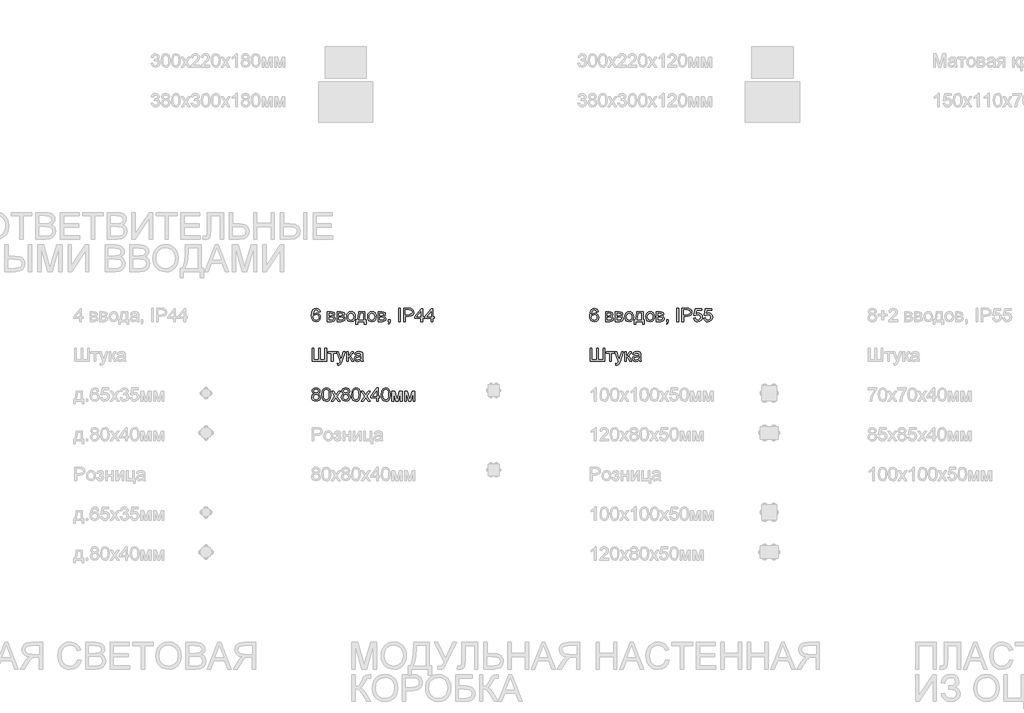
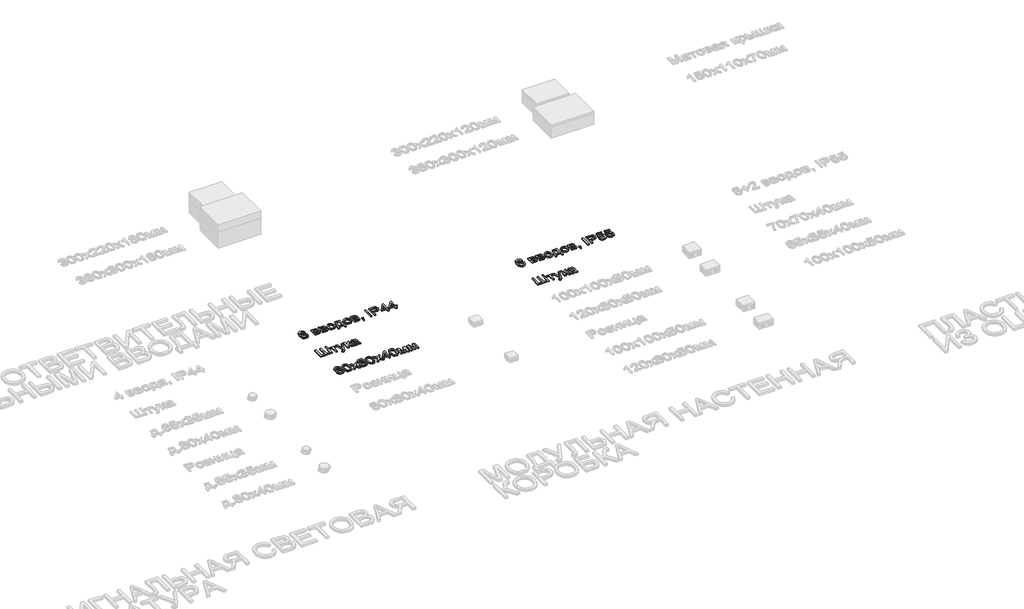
# One storey, part 15 of 98: 5 proxies.
"""IFC4 building model written with IfcOpenShell, lengths in millimetres."""

from ifc_helpers import new_model, si_unit, origin, origin_with_axes, place, context, project, spatial, polyline, outline, extrude, element, save

model = new_model("IFC4")

# Units and contexts
model_context = context("Model", 3, world=origin())
ifc_project = project(units=[si_unit("LENGTHUNIT", "METRE", prefix="MILLI")], contexts=[model_context])

# Site, building, storey
site = spatial("IfcSite", under=ifc_project)
building = spatial("IfcBuilding", under=site)
storey = spatial("IfcBuildingStorey", under=building, Name="Этаж 01", Elevation=0.0)

# Proxies
placement = place(None, origin())
element("IfcBuildingElementProxy", 1, Name="100", ObjectType="100", at=placement, inside=storey, context=model_context, shape_type="SweptSolid", body=[
    extrude(outline(polyline([(3914.8050424, -45085.7395637), (3902.2480036, -45087.3091935), (3897.4900632, -45076.8368194), (3884.9084989, -45071.6128951), (3873.5777335, -45074.6540529), (3865.006083, -45086.0706575), (3861.4376276, -45108.4501455), (3872.5108757, -45098.4314925), (3886.2328741, -45095.1573428), (3897.8334197, -45097.3952916), (3907.5700298, -45104.109138), (3914.1735116, -45114.3669143), (3916.3746722, -45127.2366527), (3912.2298684, -45144.5638947), (3900.8255266, -45156.8266279), (3884.3689387, -45161.0817963), (3870.1227084, -45158.2613677), (3858.7766145, -45149.8000818), (3851.3545953, -45134.8640728), (3848.8805889, -45112.6194748), (3851.6274411, -45087.6096305), (3859.8679978, -45070.5092491), (3871.1190555, -45061.9192045), (3885.6933138, -45059.0558563), (3896.7113796, -45060.8278213), (3905.5344161, -45066.1437161), (3911.7148336, -45074.5866079), (3914.8050424, -45085.7395637)]), holes=[polyline([(3861.4376276, -45127.040449), (3864.3438954, -45137.9174933), (3872.0694173, -45145.8146935), (3883.38792, -45148.5247575), (3891.674462, -45147.1206746), (3898.1890389, -45142.9084257), (3902.4104848, -45136.2865498), (3903.8176335, -45127.6535857), (3902.4288789, -45119.3670437), (3898.2626153, -45113.0486705), (3891.6376738, -45109.0479538), (3882.8728852, -45107.7143815), (3867.6793588, -45113.0486705), (3862.9980604, -45119.2137596), (3861.4376276, -45127.040449)])]), origin_with_axes(), (0.0, 0.0, 1.0), 10.0),
    extrude(outline(polyline([(3969.742087, -45085.7395637), (3997.406813, -45085.7395637), (4012.575814, -45087.4195581), (4021.1106763, -45093.5754502), (4024.6791316, -45104.3053417), (4022.5208906, -45113.024145), (4016.021642, -45119.2413507), (4024.4584024, -45126.0471676), (4027.8183913, -45137.8807051), (4025.6908071, -45147.4517684), (4020.6324297, -45154.1901403), (4012.6248649, -45158.1816599), (4001.6497187, -45159.5121665), (3969.742087, -45159.5121665), (3969.742087, -45085.7395637)]), holes=[polyline([(3982.2991258, -45146.9551277), (3997.7011186, -45146.9551277), (4011.3618034, -45144.6865221), (4015.2613525, -45136.8506356), (4013.1153742, -45130.8051081), (4007.5235679, -45127.2857037), (3996.4748453, -45126.5499397), (3982.2991258, -45126.5499397), (3982.2991258, -45146.9551277)]), polyline([(3982.2991258, -45113.9929009), (3994.7090118, -45113.9929009), (4004.948394, -45113.3552388), (4009.9270636, -45110.8045903), (4012.1220929, -45106.1938026), (4008.2715946, -45100.0379106), (3995.1014192, -45098.2966025), (3982.2991258, -45098.2966025), (3982.2991258, -45113.9929009)])]), origin_with_axes(), (0.0, 0.0, 1.0), 10.0),
    extrude(outline(polyline([(4043.5146898, -45085.7395637), (4071.1794158, -45085.7395637), (4086.3484167, -45087.4195581), (4094.883279, -45093.5754502), (4098.4517344, -45104.3053417), (4096.2934934, -45113.024145), (4089.7942448, -45119.2413507), (4098.2310052, -45126.0471676), (4101.5909941, -45137.8807051), (4099.4634099, -45147.4517684), (4094.4050324, -45154.1901403), (4086.3974677, -45158.1816599), (4075.4223215, -45159.5121665), (4043.5146898, -45159.5121665), (4043.5146898, -45085.7395637)]), holes=[polyline([(4056.0717285, -45146.9551277), (4071.4737214, -45146.9551277), (4085.1344062, -45144.6865221), (4089.0339553, -45136.8506356), (4086.887977, -45130.8051081), (4081.2961707, -45127.2857037), (4070.2474481, -45126.5499397), (4056.0717285, -45126.5499397), (4056.0717285, -45146.9551277)]), polyline([(4056.0717285, -45113.9929009), (4068.4816145, -45113.9929009), (4078.7209967, -45113.3552388), (4083.6996664, -45110.8045903), (4085.8946956, -45106.1938026), (4082.0441974, -45100.0379106), (4068.874022, -45098.2966025), (4056.0717285, -45098.2966025), (4056.0717285, -45113.9929009)])]), origin_with_axes(), (0.0, 0.0, 1.0), 10.0),
    extrude(outline(polyline([(4114.1480329, -45122.6258651), (4116.8642282, -45104.8387706), (4125.0128144, -45092.3369141), (4135.0805184, -45086.2116789), (4147.1347851, -45084.1699338), (4160.3264203, -45086.656203), (4170.8631738, -45094.1150104), (4177.7701582, -45105.957745), (4180.0724864, -45121.5957955), (4176.001259, -45143.9384953), (4164.143196, -45156.5813732), (4147.1347851, -45161.0817963), (4133.7837343, -45158.6047242), (4123.2592436, -45151.1735079), (4116.4258355, -45139.082453), (4114.1480329, -45122.6258651)]), holes=[polyline([(4126.7050716, -45122.6013396), (4128.1582055, -45133.9658276), (4132.5176071, -45142.0622972), (4139.0781694, -45146.9091424), (4147.1347851, -45148.5247575), (4155.1546126, -45146.8999454), (4161.7029121, -45142.025509), (4166.0623137, -45133.8217405), (4167.5154476, -45122.2089321), (4166.0531167, -45111.175538), (4161.6661239, -45103.189433), (4155.1086273, -45098.3425877), (4147.1347851, -45096.7269726), (4139.0781694, -45098.3364563), (4132.5176071, -45103.1649075), (4128.1582055, -45111.242983), (4126.7050716, -45122.6013396)])]), origin_with_axes(), (0.0, 0.0, 1.0), 10.0),
    extrude(outline(polyline([(4205.1865639, -45085.7395637), (4252.2754593, -45085.7395637), (4252.2754593, -45146.9551277), (4261.6932384, -45146.9551277), (4261.6932384, -45179.9173545), (4249.1361996, -45179.9173545), (4249.1361996, -45159.5121665), (4197.3384147, -45159.5121665), (4197.3384147, -45179.9173545), (4184.7813759, -45179.9173545), (4184.7813759, -45146.9551277), (4192.6295252, -45146.9551277), (4202.3293471, -45123.0060098), (4205.1865639, -45085.7395637)]), holes=[polyline([(4216.1739728, -45098.2966025), (4213.2309169, -45126.905559), (4206.7561938, -45146.9551277), (4239.7184205, -45146.9551277), (4239.7184205, -45098.2966025), (4216.1739728, -45098.2966025)])]), origin_with_axes(), (0.0, 0.0, 1.0), 10.0),
    extrude(outline(polyline([(4272.6806473, -45122.6258651), (4275.3968427, -45104.8387706), (4283.5454289, -45092.3369141), (4293.6131328, -45086.2116789), (4305.6673995, -45084.1699338), (4318.8590348, -45086.656203), (4329.3957882, -45094.1150104), (4336.3027727, -45105.957745), (4338.6051008, -45121.5957955), (4334.5338734, -45143.9384953), (4322.6758105, -45156.5813732), (4305.6673995, -45161.0817963), (4292.3163488, -45158.6047242), (4281.7918581, -45151.1735079), (4274.95845, -45139.082453), (4272.6806473, -45122.6258651)]), holes=[polyline([(4285.2376861, -45122.6013396), (4286.69082, -45133.9658276), (4291.0502216, -45142.0622972), (4297.6107838, -45146.9091424), (4305.6673995, -45148.5247575), (4313.687227, -45146.8999454), (4320.2355265, -45142.025509), (4324.5949282, -45133.8217405), (4326.0480621, -45122.2089321), (4324.5857311, -45111.175538), (4320.1987384, -45103.189433), (4313.6412418, -45098.3425877), (4305.6673995, -45096.7269726), (4297.6107838, -45098.3364563), (4291.0502216, -45103.1649075), (4286.69082, -45111.242983), (4285.2376861, -45122.6013396)])]), origin_with_axes(), (0.0, 0.0, 1.0), 10.0),
    extrude(outline(polyline([(4352.7317695, -45085.7395637), (4380.3964955, -45085.7395637), (4395.5654964, -45087.4195581), (4404.1003587, -45093.5754502), (4407.6688141, -45104.3053417), (4405.510573, -45113.024145), (4399.0113245, -45119.2413507), (4407.4480849, -45126.0471676), (4410.8080738, -45137.8807051), (4408.6804896, -45147.4517684), (4403.6221121, -45154.1901403), (4395.6145474, -45158.1816599), (4384.6394012, -45159.5121665), (4352.7317695, -45159.5121665), (4352.7317695, -45085.7395637)]), holes=[polyline([(4365.2888082, -45146.9551277), (4380.6908011, -45146.9551277), (4394.3514858, -45144.6865221), (4398.251035, -45136.8506356), (4396.1050567, -45130.8051081), (4390.5132504, -45127.2857037), (4379.4645278, -45126.5499397), (4365.2888082, -45126.5499397), (4365.2888082, -45146.9551277)]), polyline([(4365.2888082, -45113.9929009), (4377.6986942, -45113.9929009), (4387.9380764, -45113.3552388), (4392.9167461, -45110.8045903), (4395.1117753, -45106.1938026), (4391.2612771, -45100.0379106), (4378.0911017, -45098.2966025), (4365.2888082, -45098.2966025), (4365.2888082, -45113.9929009)])]), origin_with_axes(), (0.0, 0.0, 1.0), 10.0),
    extrude(outline(polyline([(4429.6436319, -45159.5121665), (4429.6436319, -45146.9551277), (4442.2006707, -45146.9551277), (4442.2006707, -45159.5121665), (4439.9443278, -45172.3512481), (4432.7828916, -45179.9173545), (4429.6436319, -45175.2084649), (4434.2544196, -45169.7883369), (4435.8976258, -45159.5121665), (4429.6436319, -45159.5121665)])), origin_with_axes(), (0.0, 0.0, 1.0), 10.0),
    extrude(outline(polyline([(4508.1251242, -45159.5121665), (4508.1251242, -45059.0558563), (4520.682163, -45059.0558563), (4520.682163, -45159.5121665), (4508.1251242, -45159.5121665)])), origin_with_axes(), (0.0, 0.0, 1.0), 10.0),
    extrude(outline(polyline([(4545.7962405, -45159.5121665), (4545.7962405, -45059.0558563), (4583.0258984, -45059.0558563), (4598.0354838, -45060.0123495), (4610.2369033, -45064.7089763), (4618.1463662, -45074.421061), (4621.1384731, -45088.1185339), (4619.1181878, -45099.9582028), (4613.057332, -45109.8235716), (4601.7235008, -45116.4822358), (4583.8842898, -45118.7017905), (4558.3532793, -45118.7017905), (4558.3532793, -45159.5121665), (4545.7962405, -45159.5121665)]), holes=[polyline([(4558.3532793, -45106.1447517), (4584.6200538, -45106.1447517), (4603.1122554, -45101.533964), (4607.2141396, -45095.9850773), (4608.5814344, -45088.5599923), (4605.3563355, -45078.1611946), (4596.8827869, -45072.4712864), (4584.3257482, -45071.6128951), (4558.3532793, -45071.6128951), (4558.3532793, -45106.1447517)])]), origin_with_axes(), (0.0, 0.0, 1.0), 10.0),
    extrude(outline(polyline([(4674.5058879, -45159.5121665), (4674.5058879, -45135.9677188), (4628.9866224, -45135.9677188), (4628.9866224, -45123.41068), (4677.6451476, -45060.6254862), (4687.0629267, -45060.6254862), (4687.0629267, -45123.41068), (4699.6199654, -45123.41068), (4699.6199654, -45135.9677188), (4687.0629267, -45135.9677188), (4687.0629267, -45159.5121665), (4674.5058879, -45159.5121665)]), holes=[polyline([(4674.5058879, -45123.41068), (4674.5058879, -45084.6113922), (4644.4376662, -45123.41068), (4674.5058879, -45123.41068)])]), origin_with_axes(), (0.0, 0.0, 1.0), 10.0),
    extrude(outline(polyline([(4751.4177504, -45159.5121665), (4751.4177504, -45135.9677188), (4705.8984848, -45135.9677188), (4705.8984848, -45123.41068), (4754.5570101, -45060.6254862), (4763.9747891, -45060.6254862), (4763.9747891, -45123.41068), (4776.5318279, -45123.41068), (4776.5318279, -45135.9677188), (4763.9747891, -45135.9677188), (4763.9747891, -45159.5121665), (4751.4177504, -45159.5121665)]), holes=[polyline([(4751.4177504, -45123.41068), (4751.4177504, -45084.6113922), (4721.3495286, -45123.41068), (4751.4177504, -45123.41068)])]), origin_with_axes(), (0.0, 0.0, 1.0), 10.0),
])
element("IfcBuildingElementProxy", 2, Name="100", ObjectType="100", at=placement, inside=storey, context=model_context, shape_type="SweptSolid", body=[
    extrude(outline(polyline([(3853.5894784, -45359.0558563), (3866.1465172, -45359.0558563), (3866.1465172, -45446.9551277), (3902.2480036, -45446.9551277), (3902.2480036, -45359.0558563), (3914.8050424, -45359.0558563), (3914.8050424, -45446.9551277), (3950.9065289, -45446.9551277), (3950.9065289, -45359.0558563), (3963.4635676, -45359.0558563), (3963.4635676, -45459.5121665), (3853.5894784, -45459.5121665), (3853.5894784, -45359.0558563)])), origin_with_axes(), (0.0, 0.0, 1.0), 10.0),
    extrude(outline(polyline([(3976.0206064, -45385.7395637), (4035.6665405, -45385.7395637), (4035.6665405, -45398.2966025), (4012.1220929, -45398.2966025), (4012.1220929, -45459.5121665), (3999.5650541, -45459.5121665), (3999.5650541, -45398.2966025), (3976.0206064, -45398.2966025), (3976.0206064, -45385.7395637)])), origin_with_axes(), (0.0, 0.0, 1.0), 10.0),
    extrude(outline(polyline([(4046.6539495, -45487.7655037), (4045.0843196, -45475.6744488), (4051.4609409, -45476.7780948), (4057.4206292, -45475.3924059), (4061.0749237, -45471.529645), (4064.508489, -45462.2835442), (4065.4895076, -45459.2423863), (4038.8058002, -45385.7395637), (4052.0495521, -45385.7395637), (4066.2007461, -45426.6970925), (4071.1303649, -45443.080104), (4076.0599836, -45428.6100789), (4090.6035852, -45385.7395637), (4103.7492351, -45385.7395637), (4078.0710719, -45461.278), (4071.400145, -45477.6610116), (4064.1160815, -45486.5147049), (4054.3304204, -45489.3351335), (4046.6539495, -45487.7655037)])), origin_with_axes(), (0.0, 0.0, 1.0), 10.0),
    extrude(outline(polyline([(4114.1480329, -45385.7395637), (4126.7050716, -45385.7395637), (4126.7050716, -45417.1321606), (4135.1173066, -45414.8758177), (4142.0089626, -45401.7301677), (4147.735659, -45390.3871396), (4152.7879051, -45386.6960569), (4161.9726922, -45385.7395637), (4164.3761879, -45385.7395637), (4164.3761879, -45398.3701789), (4160.9916736, -45398.2966025), (4154.860307, -45399.6209776), (4150.5438249, -45407.8860598), (4145.4793161, -45416.8255923), (4138.3791936, -45421.203388), (4146.3009192, -45426.0900872), (4154.0754921, -45436.3846517), (4167.5154476, -45459.5121665), (4153.2416262, -45459.5121665), (4140.0714508, -45436.875161), (4133.4495749, -45427.2979664), (4126.7050716, -45424.9803098), (4126.7050716, -45459.5121665), (4114.1480329, -45459.5121665), (4114.1480329, -45385.7395637)])), origin_with_axes(), (0.0, 0.0, 1.0), 10.0),
    extrude(outline(polyline([(4222.4524922, -45450.0943874), (4210.2755982, -45458.6047242), (4196.8233799, -45461.0817963), (4186.329546, -45459.5918742), (4178.5886957, -45455.122108), (4173.8154268, -45448.3346852), (4172.2243372, -45439.8917934), (4174.6278329, -45429.9589795), (4180.9431404, -45422.7484924), (4189.7355201, -45418.6282141), (4200.6003017, -45416.7397532), (4222.3789158, -45412.4232711), (4222.4524922, -45409.6273679), (4218.9944015, -45400.3567416), (4205.1129875, -45396.7269726), (4192.408796, -45399.142731), (4186.3510058, -45407.7143815), (4173.793967, -45406.1447517), (4179.2263578, -45393.8820185), (4190.1647158, -45386.6960569), (4206.7316683, -45384.1699338), (4221.9497202, -45386.4017513), (4230.5458961, -45392.0058203), (4234.3963943, -45400.5284199), (4235.009531, -45411.5158288), (4235.009531, -45427.1385509), (4235.6471931, -45448.9539532), (4238.1487907, -45459.5121665), (4225.5917519, -45459.5121665), (4222.4524922, -45450.0943874)]), holes=[polyline([(4222.4524922, -45424.9803098), (4202.194457, -45428.8308081), (4191.3909891, -45430.8664218), (4186.4981586, -45434.1773597), (4184.7813759, -45439.0088766), (4188.5215095, -45445.8024308), (4199.4966557, -45448.5247575), (4212.2008473, -45445.5203879), (4220.3923531, -45438.2485871), (4222.3789158, -45428.5365025), (4222.4524922, -45424.9803098)])]), origin_with_axes(), (0.0, 0.0, 1.0), 10.0),
])
element("IfcBuildingElementProxy", 3, Name="100", ObjectType="100", at=placement, inside=storey, context=model_context, shape_type="SweptSolid", body=[
    extrude(outline(polyline([(3868.7462166, -45704.1827144), (3857.3050866, -45696.3836161), (3853.5894784, -45684.2435102), (3855.6128294, -45674.4271923), (3861.6828823, -45666.3153943), (3871.1190555, -45660.8707408), (3883.2407672, -45659.0558563), (3895.4360554, -45660.9136604), (3904.9948559, -45666.4870726), (3911.1752734, -45674.7276293), (3913.2354126, -45684.5868668), (3909.5688553, -45696.4204043), (3898.4465563, -45704.1827144), (3911.8006728, -45714.0296891), (3916.3746722, -45730.2778106), (3914.1060666, -45742.2830264), (3907.3002497, -45752.2035775), (3896.7910874, -45758.8622416), (3883.4124455, -45761.0817963), (3870.0338036, -45758.8530446), (3859.5246413, -45752.1667893), (3852.7188243, -45742.151202), (3850.4502187, -45729.934454), (3855.2081592, -45713.3061879), (3868.7462166, -45704.1827144)]), holes=[polyline([(3866.1465172, -45684.6113922), (3870.5978893, -45694.4706297), (3883.5595983, -45698.2966025), (3896.2637898, -45694.4951552), (3900.6783738, -45685.175478), (3896.116637, -45675.524707), (3883.4124455, -45671.6128951), (3870.6714657, -45675.4388678), (3866.1465172, -45684.6113922)]), polyline([(3863.0072575, -45729.4929957), (3865.1041849, -45738.9475629), (3872.5231384, -45746.02316), (3883.5105473, -45748.5247575), (3892.0576724, -45747.2095794), (3898.4710818, -45743.264045), (3903.8176335, -45729.8854031), (3898.2994035, -45716.2492438), (3891.7388413, -45712.2025419), (3883.0936144, -45710.8536412), (3874.666051, -45712.1841478), (3868.3170209, -45716.1756674), (3863.0072575, -45729.4929957)])]), origin_with_axes(), (0.0, 0.0, 1.0), 10.0),
    extrude(outline(polyline([(3927.3620812, -45710.0933518), (3931.0531639, -45681.1900897), (3942.0160473, -45664.5250353), (3960.3243079, -45659.0558563), (3974.9905368, -45662.2932179), (3985.1195544, -45671.6251578), (3991.0056663, -45686.4875904), (3993.2865347, -45710.0933518), (3989.6322402, -45738.8739865), (3978.706145, -45755.5758291), (3970.4747853, -45759.7053045), (3960.3243079, -45761.0817963), (3947.2767598, -45758.6905633), (3937.3684714, -45751.5168644), (3929.8636787, -45734.5268476), (3927.3620812, -45710.0933518)]), holes=[polyline([(3939.9191199, -45710.0688263), (3941.3906479, -45729.8210238), (3945.8052319, -45741.2529568), (3952.3780568, -45746.7068073), (3960.3243079, -45748.5247575), (3968.270559, -45746.700676), (3974.843384, -45741.2284313), (3979.257968, -45729.7903669), (3980.7294959, -45710.0688263), (3979.3070189, -45690.7611529), (3975.0395877, -45679.2403151), (3968.4790255, -45673.5197501), (3960.1771551, -45671.6128951), (3952.3167432, -45673.2928895), (3946.0014356, -45678.3328729), (3941.4396988, -45690.5710806), (3939.9191199, -45710.0688263)])]), origin_with_axes(), (0.0, 0.0, 1.0), 10.0),
    extrude(outline(polyline([(3999.5650541, -45759.5121665), (4026.3959143, -45722.4296613), (4001.1346839, -45685.7395637), (4016.2423712, -45685.7395637), (4028.431528, -45703.3978995), (4034.1214362, -45711.736558), (4039.0510549, -45704.9184784), (4052.9324689, -45685.7395637), (4068.0401561, -45685.7395637), (4041.5036015, -45722.4296613), (4067.0591375, -45759.5121665), (4051.9514502, -45759.5121665), (4036.5739828, -45737.2185176), (4033.7535542, -45733.1472901), (4014.6727414, -45759.5121665), (3999.5650541, -45759.5121665)])), origin_with_axes(), (0.0, 0.0, 1.0), 10.0),
    extrude(outline(polyline([(4093.2032846, -45704.1827144), (4081.7621545, -45696.3836161), (4078.0465464, -45684.2435102), (4080.0698974, -45674.4271923), (4086.1399503, -45666.3153943), (4095.5761235, -45660.8707408), (4107.6978352, -45659.0558563), (4119.8931233, -45660.9136604), (4129.4519239, -45666.4870726), (4135.6323414, -45674.7276293), (4137.6924805, -45684.5868668), (4134.0259233, -45696.4204043), (4122.9036243, -45704.1827144), (4136.2577408, -45714.0296891), (4140.8317402, -45730.2778106), (4138.5631346, -45742.2830264), (4131.7573177, -45752.2035775), (4121.2481554, -45758.8622416), (4107.8695135, -45761.0817963), (4094.4908716, -45758.8530446), (4083.9817092, -45752.1667893), (4077.1758923, -45742.151202), (4074.9072867, -45729.934454), (4079.6652272, -45713.3061879), (4093.2032846, -45704.1827144)]), holes=[polyline([(4087.4643255, -45729.4929957), (4089.5612528, -45738.9475629), (4096.9802064, -45746.02316), (4107.9676153, -45748.5247575), (4116.5147404, -45747.2095794), (4122.9281498, -45743.264045), (4128.2747015, -45729.8854031), (4122.7564715, -45716.2492438), (4116.1959093, -45712.2025419), (4107.5506824, -45710.8536412), (4099.123119, -45712.1841478), (4092.7740889, -45716.1756674), (4087.4643255, -45729.4929957)]), polyline([(4090.6035852, -45684.6113922), (4095.0549573, -45694.4706297), (4108.0166663, -45698.2966025), (4120.7208578, -45694.4951552), (4125.1354418, -45685.175478), (4120.573705, -45675.524707), (4107.8695135, -45671.6128951), (4095.1285337, -45675.4388678), (4090.6035852, -45684.6113922)])]), origin_with_axes(), (0.0, 0.0, 1.0), 10.0),
    extrude(outline(polyline([(4151.8191492, -45710.0933518), (4155.5102318, -45681.1900897), (4166.4731153, -45664.5250353), (4184.7813759, -45659.0558563), (4199.4476048, -45662.2932179), (4209.5766224, -45671.6251578), (4215.4627343, -45686.4875904), (4217.7436027, -45710.0933518), (4214.0893082, -45738.8739865), (4203.163213, -45755.5758291), (4194.9318533, -45759.7053045), (4184.7813759, -45761.0817963), (4171.7338278, -45758.6905633), (4161.8255394, -45751.5168644), (4154.3207467, -45734.5268476), (4151.8191492, -45710.0933518)]), holes=[polyline([(4164.3761879, -45710.0688263), (4165.8477159, -45729.8210238), (4170.2622998, -45741.2529568), (4176.8351248, -45746.7068073), (4184.7813759, -45748.5247575), (4192.727627, -45746.700676), (4199.300452, -45741.2284313), (4203.7150359, -45729.7903669), (4205.1865639, -45710.0688263), (4203.7640869, -45690.7611529), (4199.4966557, -45679.2403151), (4192.9360935, -45673.5197501), (4184.6342231, -45671.6128951), (4176.7738112, -45673.2928895), (4170.4585036, -45678.3328729), (4165.8967668, -45690.5710806), (4164.3761879, -45710.0688263)])]), origin_with_axes(), (0.0, 0.0, 1.0), 10.0),
    extrude(outline(polyline([(4224.0221221, -45759.5121665), (4250.8529823, -45722.4296613), (4225.5917519, -45685.7395637), (4240.6994392, -45685.7395637), (4252.888596, -45703.3978995), (4258.5785042, -45711.736558), (4263.5081229, -45704.9184784), (4277.3895368, -45685.7395637), (4292.4972241, -45685.7395637), (4265.9606695, -45722.4296613), (4291.5162055, -45759.5121665), (4276.4085182, -45759.5121665), (4261.0310508, -45737.2185176), (4258.2106222, -45733.1472901), (4239.1298093, -45759.5121665), (4224.0221221, -45759.5121665)])), origin_with_axes(), (0.0, 0.0, 1.0), 10.0),
    extrude(outline(polyline([(4340.1747307, -45759.5121665), (4340.1747307, -45735.9677188), (4294.6554652, -45735.9677188), (4294.6554652, -45723.41068), (4343.3139904, -45660.6254862), (4352.7317695, -45660.6254862), (4352.7317695, -45723.41068), (4365.2888082, -45723.41068), (4365.2888082, -45735.9677188), (4352.7317695, -45735.9677188), (4352.7317695, -45759.5121665), (4340.1747307, -45759.5121665)]), holes=[polyline([(4340.1747307, -45723.41068), (4340.1747307, -45684.6113922), (4310.1065089, -45723.41068), (4340.1747307, -45723.41068)])]), origin_with_axes(), (0.0, 0.0, 1.0), 10.0),
    extrude(outline(polyline([(4376.2762171, -45710.0933518), (4379.9672998, -45681.1900897), (4390.9301833, -45664.5250353), (4409.2384439, -45659.0558563), (4423.9046728, -45662.2932179), (4434.0336904, -45671.6251578), (4439.9198023, -45686.4875904), (4442.2006707, -45710.0933518), (4438.5463762, -45738.8739865), (4427.6202809, -45755.5758291), (4419.3889213, -45759.7053045), (4409.2384439, -45761.0817963), (4396.1908958, -45758.6905633), (4386.2826074, -45751.5168644), (4378.7778147, -45734.5268476), (4376.2762171, -45710.0933518)]), holes=[polyline([(4388.8332559, -45710.0688263), (4390.3047839, -45729.8210238), (4394.7193678, -45741.2529568), (4401.2921928, -45746.7068073), (4409.2384439, -45748.5247575), (4417.184695, -45746.700676), (4423.75752, -45741.2284313), (4428.1721039, -45729.7903669), (4429.6436319, -45710.0688263), (4428.2211549, -45690.7611529), (4423.9537237, -45679.2403151), (4417.3931615, -45673.5197501), (4409.0912911, -45671.6128951), (4401.2308792, -45673.2928895), (4394.9155716, -45678.3328729), (4390.3538348, -45690.5710806), (4388.8332559, -45710.0688263)])]), origin_with_axes(), (0.0, 0.0, 1.0), 10.0),
    extrude(outline(polyline([(4456.3273393, -45685.7395637), (4477.9342751, -45685.7395637), (4494.5870668, -45744.7968867), (4512.5397082, -45685.7395637), (4533.2392018, -45685.7395637), (4533.2392018, -45759.5121665), (4520.682163, -45759.5121665), (4520.682163, -45700.111487), (4502.6314198, -45759.5121665), (4486.1503064, -45759.5121665), (4468.8843781, -45697.2665329), (4468.8843781, -45759.5121665), (4456.3273393, -45759.5121665), (4456.3273393, -45685.7395637)])), origin_with_axes(), (0.0, 0.0, 1.0), 10.0),
    extrude(outline(polyline([(4552.0747599, -45685.7395637), (4573.6816958, -45685.7395637), (4590.3344874, -45744.7968867), (4608.2871288, -45685.7395637), (4628.9866224, -45685.7395637), (4628.9866224, -45759.5121665), (4616.4295836, -45759.5121665), (4616.4295836, -45700.111487), (4598.3788404, -45759.5121665), (4581.897727, -45759.5121665), (4564.6317987, -45697.2665329), (4564.6317987, -45759.5121665), (4552.0747599, -45759.5121665), (4552.0747599, -45685.7395637)])), origin_with_axes(), (0.0, 0.0, 1.0), 10.0),
])
element("IfcBuildingElementProxy", 4, Name="100", ObjectType="100", at=placement, inside=storey, context=model_context, shape_type="SweptSolid", body=[
    extrude(outline(polyline([(6014.8050424, -45085.7395637), (6002.2480036, -45087.3091935), (5997.4900632, -45076.8368194), (5984.9084989, -45071.6128951), (5973.5777335, -45074.6540529), (5965.006083, -45086.0706575), (5961.4376276, -45108.4501455), (5972.5108757, -45098.4314925), (5986.2328741, -45095.1573428), (5997.8334197, -45097.3952916), (6007.5700298, -45104.109138), (6014.1735116, -45114.3669143), (6016.3746722, -45127.2366527), (6012.2298684, -45144.5638947), (6000.8255266, -45156.8266279), (5984.3689387, -45161.0817963), (5970.1227084, -45158.2613677), (5958.7766145, -45149.8000818), (5951.3545953, -45134.8640728), (5948.8805889, -45112.6194748), (5951.6274411, -45087.6096305), (5959.8679978, -45070.5092491), (5971.1190555, -45061.9192045), (5985.6933138, -45059.0558563), (5996.7113796, -45060.8278213), (6005.5344161, -45066.1437161), (6011.7148336, -45074.5866079), (6014.8050424, -45085.7395637)]), holes=[polyline([(5961.4376276, -45127.040449), (5964.3438954, -45137.9174933), (5972.0694173, -45145.8146935), (5983.38792, -45148.5247575), (5991.674462, -45147.1206746), (5998.1890389, -45142.9084257), (6002.4104848, -45136.2865498), (6003.8176335, -45127.6535857), (6002.4288789, -45119.3670437), (5998.2626153, -45113.0486705), (5991.6376738, -45109.0479538), (5982.8728852, -45107.7143815), (5967.6793588, -45113.0486705), (5962.9980604, -45119.2137596), (5961.4376276, -45127.040449)])]), origin_with_axes(), (0.0, 0.0, 1.0), 10.0),
    extrude(outline(polyline([(6069.742087, -45085.7395637), (6097.406813, -45085.7395637), (6112.575814, -45087.4195581), (6121.1106763, -45093.5754502), (6124.6791316, -45104.3053417), (6122.5208906, -45113.024145), (6116.021642, -45119.2413507), (6124.4584024, -45126.0471676), (6127.8183913, -45137.8807051), (6125.6908071, -45147.4517684), (6120.6324297, -45154.1901403), (6112.6248649, -45158.1816599), (6101.6497187, -45159.5121665), (6069.742087, -45159.5121665), (6069.742087, -45085.7395637)]), holes=[polyline([(6082.2991258, -45146.9551277), (6097.7011186, -45146.9551277), (6111.3618034, -45144.6865221), (6115.2613525, -45136.8506356), (6113.1153742, -45130.8051081), (6107.5235679, -45127.2857037), (6096.4748453, -45126.5499397), (6082.2991258, -45126.5499397), (6082.2991258, -45146.9551277)]), polyline([(6082.2991258, -45113.9929009), (6094.7090118, -45113.9929009), (6104.948394, -45113.3552388), (6109.9270636, -45110.8045903), (6112.1220929, -45106.1938026), (6108.2715946, -45100.0379106), (6095.1014192, -45098.2966025), (6082.2991258, -45098.2966025), (6082.2991258, -45113.9929009)])]), origin_with_axes(), (0.0, 0.0, 1.0), 10.0),
    extrude(outline(polyline([(6143.5146898, -45085.7395637), (6171.1794158, -45085.7395637), (6186.3484167, -45087.4195581), (6194.883279, -45093.5754502), (6198.4517344, -45104.3053417), (6196.2934934, -45113.024145), (6189.7942448, -45119.2413507), (6198.2310052, -45126.0471676), (6201.5909941, -45137.8807051), (6199.4634099, -45147.4517684), (6194.4050324, -45154.1901403), (6186.3974677, -45158.1816599), (6175.4223215, -45159.5121665), (6143.5146898, -45159.5121665), (6143.5146898, -45085.7395637)]), holes=[polyline([(6156.0717285, -45146.9551277), (6171.4737214, -45146.9551277), (6185.1344062, -45144.6865221), (6189.0339553, -45136.8506356), (6186.887977, -45130.8051081), (6181.2961707, -45127.2857037), (6170.2474481, -45126.5499397), (6156.0717285, -45126.5499397), (6156.0717285, -45146.9551277)]), polyline([(6156.0717285, -45113.9929009), (6168.4816145, -45113.9929009), (6178.7209967, -45113.3552388), (6183.6996664, -45110.8045903), (6185.8946956, -45106.1938026), (6182.0441974, -45100.0379106), (6168.874022, -45098.2966025), (6156.0717285, -45098.2966025), (6156.0717285, -45113.9929009)])]), origin_with_axes(), (0.0, 0.0, 1.0), 10.0),
    extrude(outline(polyline([(6214.1480329, -45122.6258651), (6216.8642282, -45104.8387706), (6225.0128144, -45092.3369141), (6235.0805184, -45086.2116789), (6247.1347851, -45084.1699338), (6260.3264203, -45086.656203), (6270.8631738, -45094.1150104), (6277.7701582, -45105.957745), (6280.0724864, -45121.5957955), (6276.001259, -45143.9384953), (6264.143196, -45156.5813732), (6247.1347851, -45161.0817963), (6233.7837343, -45158.6047242), (6223.2592436, -45151.1735079), (6216.4258355, -45139.082453), (6214.1480329, -45122.6258651)]), holes=[polyline([(6226.7050716, -45122.6013396), (6228.1582055, -45133.9658276), (6232.5176071, -45142.0622972), (6239.0781694, -45146.9091424), (6247.1347851, -45148.5247575), (6255.1546126, -45146.8999454), (6261.7029121, -45142.025509), (6266.0623137, -45133.8217405), (6267.5154476, -45122.2089321), (6266.0531167, -45111.175538), (6261.6661239, -45103.189433), (6255.1086273, -45098.3425877), (6247.1347851, -45096.7269726), (6239.0781694, -45098.3364563), (6232.5176071, -45103.1649075), (6228.1582055, -45111.242983), (6226.7050716, -45122.6013396)])]), origin_with_axes(), (0.0, 0.0, 1.0), 10.0),
    extrude(outline(polyline([(6305.1865639, -45085.7395637), (6352.2754593, -45085.7395637), (6352.2754593, -45146.9551277), (6361.6932384, -45146.9551277), (6361.6932384, -45179.9173545), (6349.1361996, -45179.9173545), (6349.1361996, -45159.5121665), (6297.3384147, -45159.5121665), (6297.3384147, -45179.9173545), (6284.7813759, -45179.9173545), (6284.7813759, -45146.9551277), (6292.6295252, -45146.9551277), (6302.3293471, -45123.0060098), (6305.1865639, -45085.7395637)]), holes=[polyline([(6316.1739728, -45098.2966025), (6313.2309169, -45126.905559), (6306.7561938, -45146.9551277), (6339.7184205, -45146.9551277), (6339.7184205, -45098.2966025), (6316.1739728, -45098.2966025)])]), origin_with_axes(), (0.0, 0.0, 1.0), 10.0),
    extrude(outline(polyline([(6372.6806473, -45122.6258651), (6375.3968427, -45104.8387706), (6383.5454289, -45092.3369141), (6393.6131328, -45086.2116789), (6405.6673995, -45084.1699338), (6418.8590348, -45086.656203), (6429.3957882, -45094.1150104), (6436.3027727, -45105.957745), (6438.6051008, -45121.5957955), (6434.5338734, -45143.9384953), (6422.6758105, -45156.5813732), (6405.6673995, -45161.0817963), (6392.3163488, -45158.6047242), (6381.7918581, -45151.1735079), (6374.95845, -45139.082453), (6372.6806473, -45122.6258651)]), holes=[polyline([(6385.2376861, -45122.6013396), (6386.69082, -45133.9658276), (6391.0502216, -45142.0622972), (6397.6107838, -45146.9091424), (6405.6673995, -45148.5247575), (6413.687227, -45146.8999454), (6420.2355265, -45142.025509), (6424.5949282, -45133.8217405), (6426.0480621, -45122.2089321), (6424.5857311, -45111.175538), (6420.1987384, -45103.189433), (6413.6412418, -45098.3425877), (6405.6673995, -45096.7269726), (6397.6107838, -45098.3364563), (6391.0502216, -45103.1649075), (6386.69082, -45111.242983), (6385.2376861, -45122.6013396)])]), origin_with_axes(), (0.0, 0.0, 1.0), 10.0),
    extrude(outline(polyline([(6452.7317695, -45085.7395637), (6480.3964955, -45085.7395637), (6495.5654964, -45087.4195581), (6504.1003587, -45093.5754502), (6507.6688141, -45104.3053417), (6505.510573, -45113.024145), (6499.0113245, -45119.2413507), (6507.4480849, -45126.0471676), (6510.8080738, -45137.8807051), (6508.6804896, -45147.4517684), (6503.6221121, -45154.1901403), (6495.6145474, -45158.1816599), (6484.6394012, -45159.5121665), (6452.7317695, -45159.5121665), (6452.7317695, -45085.7395637)]), holes=[polyline([(6465.2888082, -45146.9551277), (6480.6908011, -45146.9551277), (6494.3514858, -45144.6865221), (6498.251035, -45136.8506356), (6496.1050567, -45130.8051081), (6490.5132504, -45127.2857037), (6479.4645278, -45126.5499397), (6465.2888082, -45126.5499397), (6465.2888082, -45146.9551277)]), polyline([(6465.2888082, -45113.9929009), (6477.6986942, -45113.9929009), (6487.9380764, -45113.3552388), (6492.9167461, -45110.8045903), (6495.1117753, -45106.1938026), (6491.2612771, -45100.0379106), (6478.0911017, -45098.2966025), (6465.2888082, -45098.2966025), (6465.2888082, -45113.9929009)])]), origin_with_axes(), (0.0, 0.0, 1.0), 10.0),
    extrude(outline(polyline([(6529.6436319, -45159.5121665), (6529.6436319, -45146.9551277), (6542.2006707, -45146.9551277), (6542.2006707, -45159.5121665), (6539.9443278, -45172.3512481), (6532.7828916, -45179.9173545), (6529.6436319, -45175.2084649), (6534.2544196, -45169.7883369), (6535.8976258, -45159.5121665), (6529.6436319, -45159.5121665)])), origin_with_axes(), (0.0, 0.0, 1.0), 10.0),
    extrude(outline(polyline([(6608.1251242, -45159.5121665), (6608.1251242, -45059.0558563), (6620.682163, -45059.0558563), (6620.682163, -45159.5121665), (6608.1251242, -45159.5121665)])), origin_with_axes(), (0.0, 0.0, 1.0), 10.0),
    extrude(outline(polyline([(6645.7962405, -45159.5121665), (6645.7962405, -45059.0558563), (6683.0258984, -45059.0558563), (6698.0354838, -45060.0123495), (6710.2369033, -45064.7089763), (6718.1463662, -45074.421061), (6721.1384731, -45088.1185339), (6719.1181878, -45099.9582028), (6713.057332, -45109.8235716), (6701.7235008, -45116.4822358), (6683.8842898, -45118.7017905), (6658.3532793, -45118.7017905), (6658.3532793, -45159.5121665), (6645.7962405, -45159.5121665)]), holes=[polyline([(6658.3532793, -45106.1447517), (6684.6200538, -45106.1447517), (6703.1122554, -45101.533964), (6707.2141396, -45095.9850773), (6708.5814344, -45088.5599923), (6705.3563355, -45078.1611946), (6696.8827869, -45072.4712864), (6684.3257482, -45071.6128951), (6658.3532793, -45071.6128951), (6658.3532793, -45106.1447517)])]), origin_with_axes(), (0.0, 0.0, 1.0), 10.0),
    extrude(outline(polyline([(6733.6955119, -45132.8284591), (6746.2525507, -45131.2588292), (6752.580121, -45144.1960127), (6765.7012455, -45148.5247575), (6774.7020916, -45147.019507), (6781.4465949, -45142.5037555), (6785.6588437, -45135.4986692), (6787.0629267, -45126.5254142), (6781.8022141, -45111.6139307), (6775.1956666, -45107.5120464), (6765.8974492, -45106.1447517), (6754.8732521, -45108.3275182), (6747.8221805, -45113.9929009), (6735.2651418, -45112.4232711), (6746.2525507, -45060.6254862), (6794.9110759, -45060.6254862), (6794.9110759, -45073.1825249), (6756.4060937, -45073.1825249), (6751.0350166, -45100.847251), (6760.0052059, -45095.4025974), (6769.4045909, -45093.5877129), (6781.1369609, -45095.8379245), (6790.8766367, -45102.5885591), (6797.4341333, -45112.8769922), (6799.6199654, -45125.7405993), (6797.6517968, -45138.2976381), (6791.7472907, -45149.0397923), (6780.4410508, -45158.0712953), (6765.6521946, -45161.0817963), (6753.3189507, -45159.1473501), (6743.4934357, -45153.3440117), (6736.7581295, -45144.3462312), (6733.6955119, -45132.8284591)])), origin_with_axes(), (0.0, 0.0, 1.0), 10.0),
    extrude(outline(polyline([(6810.6073744, -45132.8284591), (6823.1644131, -45131.2588292), (6829.4919835, -45144.1960127), (6842.6131079, -45148.5247575), (6851.6139541, -45147.019507), (6858.3584573, -45142.5037555), (6862.5707062, -45135.4986692), (6863.9747891, -45126.5254142), (6858.7140766, -45111.6139307), (6852.1075291, -45107.5120464), (6842.8093117, -45106.1447517), (6831.7851146, -45108.3275182), (6824.734043, -45113.9929009), (6812.1770042, -45112.4232711), (6823.1644131, -45060.6254862), (6871.8229384, -45060.6254862), (6871.8229384, -45073.1825249), (6833.3179562, -45073.1825249), (6827.9468791, -45100.847251), (6836.9170684, -45095.4025974), (6846.3164534, -45093.5877129), (6858.0488233, -45095.8379245), (6867.7884991, -45102.5885591), (6874.3459957, -45112.8769922), (6876.5318279, -45125.7405993), (6874.5636592, -45138.2976381), (6868.6591532, -45149.0397923), (6857.3529132, -45158.0712953), (6842.564057, -45161.0817963), (6830.2308131, -45159.1473501), (6820.4052982, -45153.3440117), (6813.669992, -45144.3462312), (6810.6073744, -45132.8284591)])), origin_with_axes(), (0.0, 0.0, 1.0), 10.0),
])
element("IfcBuildingElementProxy", 5, Name="100", ObjectType="100", at=placement, inside=storey, context=model_context, shape_type="SweptSolid", body=[
    extrude(outline(polyline([(5953.5894784, -45359.0558563), (5966.1465172, -45359.0558563), (5966.1465172, -45446.9551277), (6002.2480036, -45446.9551277), (6002.2480036, -45359.0558563), (6014.8050424, -45359.0558563), (6014.8050424, -45446.9551277), (6050.9065289, -45446.9551277), (6050.9065289, -45359.0558563), (6063.4635676, -45359.0558563), (6063.4635676, -45459.5121665), (5953.5894784, -45459.5121665), (5953.5894784, -45359.0558563)])), origin_with_axes(), (0.0, 0.0, 1.0), 10.0),
    extrude(outline(polyline([(6076.0206064, -45385.7395637), (6135.6665405, -45385.7395637), (6135.6665405, -45398.2966025), (6112.1220929, -45398.2966025), (6112.1220929, -45459.5121665), (6099.5650541, -45459.5121665), (6099.5650541, -45398.2966025), (6076.0206064, -45398.2966025), (6076.0206064, -45385.7395637)])), origin_with_axes(), (0.0, 0.0, 1.0), 10.0),
    extrude(outline(polyline([(6146.6539495, -45487.7655037), (6145.0843196, -45475.6744488), (6151.4609409, -45476.7780948), (6157.4206292, -45475.3924059), (6161.0749237, -45471.529645), (6164.508489, -45462.2835442), (6165.4895076, -45459.2423863), (6138.8058002, -45385.7395637), (6152.0495521, -45385.7395637), (6166.2007461, -45426.6970925), (6171.1303649, -45443.080104), (6176.0599836, -45428.6100789), (6190.6035852, -45385.7395637), (6203.7492351, -45385.7395637), (6178.0710719, -45461.278), (6171.400145, -45477.6610116), (6164.1160815, -45486.5147049), (6154.3304204, -45489.3351335), (6146.6539495, -45487.7655037)])), origin_with_axes(), (0.0, 0.0, 1.0), 10.0),
    extrude(outline(polyline([(6214.1480329, -45385.7395637), (6226.7050716, -45385.7395637), (6226.7050716, -45417.1321606), (6235.1173066, -45414.8758177), (6242.0089626, -45401.7301677), (6247.735659, -45390.3871396), (6252.7879051, -45386.6960569), (6261.9726922, -45385.7395637), (6264.3761879, -45385.7395637), (6264.3761879, -45398.3701789), (6260.9916736, -45398.2966025), (6254.860307, -45399.6209776), (6250.5438249, -45407.8860598), (6245.4793161, -45416.8255923), (6238.3791936, -45421.203388), (6246.3009192, -45426.0900872), (6254.0754921, -45436.3846517), (6267.5154476, -45459.5121665), (6253.2416262, -45459.5121665), (6240.0714508, -45436.875161), (6233.4495749, -45427.2979664), (6226.7050716, -45424.9803098), (6226.7050716, -45459.5121665), (6214.1480329, -45459.5121665), (6214.1480329, -45385.7395637)])), origin_with_axes(), (0.0, 0.0, 1.0), 10.0),
    extrude(outline(polyline([(6322.4524922, -45450.0943874), (6310.2755982, -45458.6047242), (6296.8233799, -45461.0817963), (6286.329546, -45459.5918742), (6278.5886957, -45455.122108), (6273.8154268, -45448.3346852), (6272.2243372, -45439.8917934), (6274.6278329, -45429.9589795), (6280.9431404, -45422.7484924), (6289.7355201, -45418.6282141), (6300.6003017, -45416.7397532), (6322.3789158, -45412.4232711), (6322.4524922, -45409.6273679), (6318.9944015, -45400.3567416), (6305.1129875, -45396.7269726), (6292.408796, -45399.1427311), (6286.3510058, -45407.7143815), (6273.793967, -45406.1447517), (6279.2263578, -45393.8820185), (6290.1647158, -45386.6960569), (6306.7316683, -45384.1699338), (6321.9497202, -45386.4017513), (6330.5458961, -45392.0058203), (6334.3963943, -45400.5284199), (6335.009531, -45411.5158288), (6335.009531, -45427.1385509), (6335.6471931, -45448.9539532), (6338.1487907, -45459.5121665), (6325.5917519, -45459.5121665), (6322.4524922, -45450.0943874)]), holes=[polyline([(6322.4524922, -45424.9803098), (6302.194457, -45428.8308081), (6291.3909891, -45430.8664218), (6286.4981586, -45434.1773597), (6284.7813759, -45439.0088766), (6288.5215095, -45445.8024308), (6299.4966557, -45448.5247575), (6312.2008473, -45445.5203879), (6320.3923531, -45438.2485871), (6322.3789158, -45428.5365025), (6322.4524922, -45424.9803098)])]), origin_with_axes(), (0.0, 0.0, 1.0), 10.0),
])

save(model, "model.ifc")
